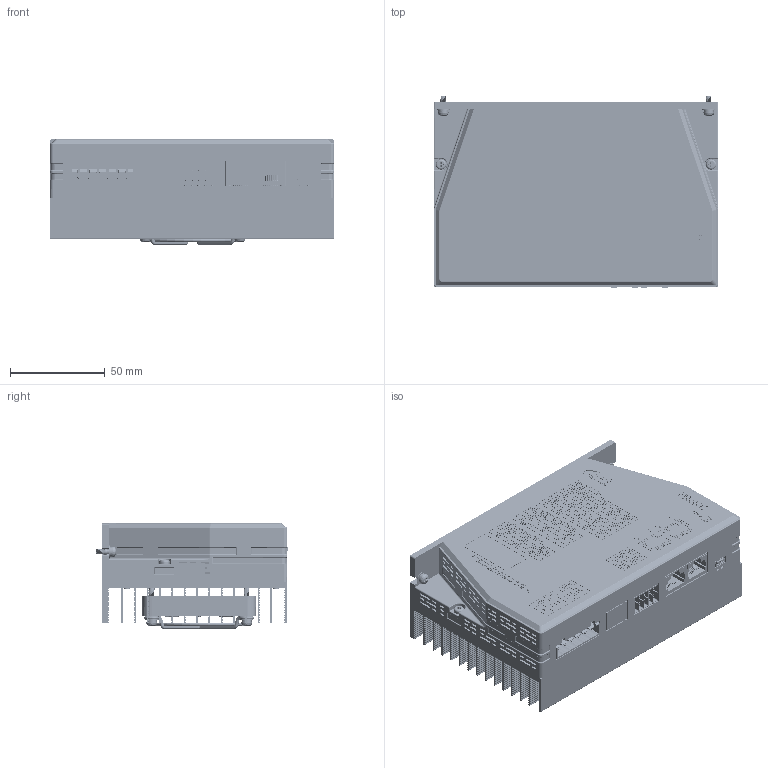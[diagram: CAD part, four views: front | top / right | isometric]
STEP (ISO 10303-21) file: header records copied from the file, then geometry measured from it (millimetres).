
FILE_DESCRIPTION(('CATIA V5 STEP Exchange','CAx-IF Rec.Pracs.--- Composite Materials ---3.4---2017-06-13'),'2;1');
FILE_NAME('E:\【1】\新建文件夹 (34)\DP3CL1-808A-官网图+EPLAN图-241128.stp','2024-12-02T03:42:02+00:00',('none'),('none'),'CATIA Version 5-6 Release 2020','CATIA V5 STEP AP203 v1','none');
FILE_SCHEMA(('CONFIG_CONTROL_DESIGN'));
Products named in the file (1): _model4
Bounding box: 150 x 100.86 x 55.8 mm (x, y, z)
Volume: 512845.3 mm3; surface area: 199301 mm2
Topology: 669 solids, 669 shells, 15450 faces, 50166 edges, 36209 vertices
Faces by surface type: plane 10725, cylinder 2513, bspline 1988, torus 177, cone 40, sphere 7
Entity records: 641475 total; most frequent: CARTESIAN_POINT 252246, ORIENTED_EDGE 100234, DIRECTION 50553, EDGE_CURVE 50117, VERTEX_POINT 36204, VECTOR 29511, LINE 29511, B_SPLINE_CURVE_WITH_KNOTS 18233
